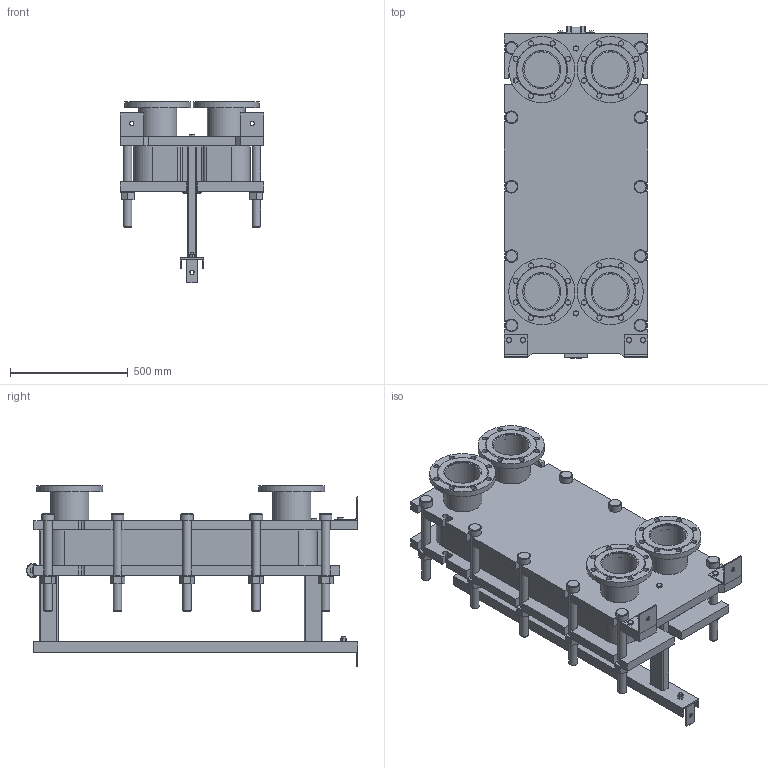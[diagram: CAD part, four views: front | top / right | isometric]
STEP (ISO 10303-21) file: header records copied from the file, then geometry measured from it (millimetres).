
FILE_DESCRIPTION(/* description */ (''),/* implementation_level */ '2;1');
FILE_NAME(/* name */ 'C:\Users\zhuro\Desktop\ENCO\TO\ЭН-041\ЭН-0,5-041-44-1.stp',/* time_stamp */ '2022-06-06T10:52:19+03:00',/* author */ ('zhuro'),/* organization */ (''),/* preprocessor_version */ 'ST-DEVELOPER v18.1',/* originating_system */ 'Autodesk Inventor 2022',/* authorisation */ '');
FILE_SCHEMA (('AUTOMOTIVE_DESIGN { 1 0 10303 214 3 1 1 }'));
Length unit declared in the file: millimetre
Products named in the file (1): ЭН-0,5-041-44-1
Bounding box: 610 x 1406.5 x 770 mm (x, y, z)
Volume: 161915867.5 mm3; surface area: 7789757 mm2
Topology: 52 solids, 52 shells, 711 faces, 1696 edges, 1094 vertices
Faces by surface type: plane 487, cylinder 177, cone 41, torus 6
Full cylindrical faces by diameter (mm): 8 x4, 10 x2, 16 x8, 18 x3, 22 x32, 36 x24, 50 x1, 54 x10, 60 x12, 151 x4, 161 x8, 280 x4
Entity records: 22667 total; most frequent: CARTESIAN_POINT 5230, DIRECTION 3644, ORIENTED_EDGE 3392, EDGE_CURVE 1696, AXIS2_PLACEMENT_3D 1272, LINE 1100, VECTOR 1100, VERTEX_POINT 1094
